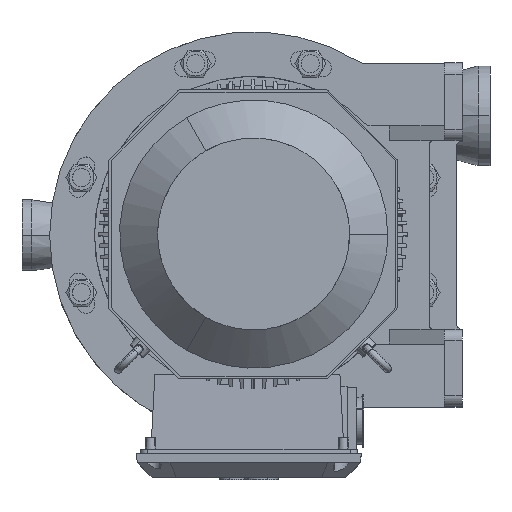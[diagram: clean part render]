
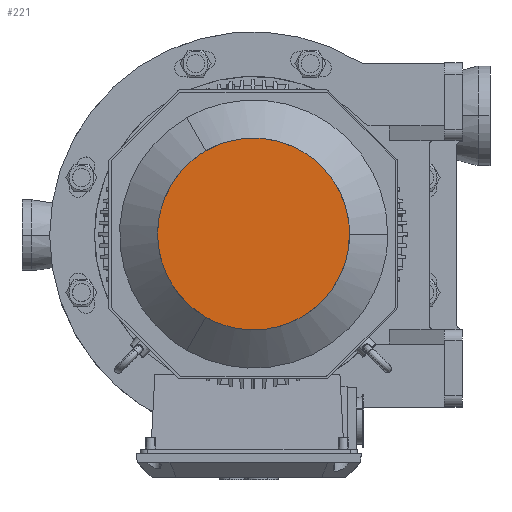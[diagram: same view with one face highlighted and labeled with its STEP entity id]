
A CAD part, top view. The second image highlights one B-rep face of the part: STEP entity #221.
In plain terms, the highlighted planar face has unit normal (0, 0, 1).
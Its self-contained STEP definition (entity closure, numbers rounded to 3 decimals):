
#136=CARTESIAN_POINT('',(-140.235,-139.591,927.108));
#137=DIRECTION('',(0.0,0.0,1.0));
#138=DIRECTION('',(-1.0,0.0,0.0));
#139=AXIS2_PLACEMENT_3D('',#136,#137,#138);
#140=PLANE('',#139);
#141=CARTESIAN_POINT('',(-63.305,111.039,927.108));
#142=VERTEX_POINT('',#141);
#143=CARTESIAN_POINT('',(129.02,0.,927.108));
#144=VERTEX_POINT('',#143);
#145=CARTESIAN_POINT('',(-63.305,111.039,927.108));
#146=CARTESIAN_POINT('',(-56.512,114.961,927.108));
#147=CARTESIAN_POINT('',(-49.178,118.502,927.108));
#148=CARTESIAN_POINT('',(-41.328,121.551,927.108));
#149=CARTESIAN_POINT('',(-24.002,126.637,927.108));
#150=CARTESIAN_POINT('',(-5.114,128.658,927.108));
#151=CARTESIAN_POINT('',(5.008,128.758,927.108));
#152=CARTESIAN_POINT('',(29.866,126.481,927.108));
#153=CARTESIAN_POINT('',(54.252,118.024,927.108));
#154=CARTESIAN_POINT('',(67.84,110.881,927.108));
#155=CARTESIAN_POINT('',(89.031,95.27,927.108));
#156=CARTESIAN_POINT('',(105.288,75.466,927.108));
#157=CARTESIAN_POINT('',(111.129,66.574,927.108));
#158=CARTESIAN_POINT('',(120.354,48.823,927.108));
#159=CARTESIAN_POINT('',(125.817,30.562,927.108));
#160=CARTESIAN_POINT('',(127.594,21.838,927.108));
#161=CARTESIAN_POINT('',(128.721,12.246,927.108));
#162=CARTESIAN_POINT('',(128.991,2.989,927.108));
#163=CARTESIAN_POINT('',(129.01,1.988,927.108));
#164=CARTESIAN_POINT('',(129.02,0.992,927.108));
#165=CARTESIAN_POINT('',(129.02,0.,927.108));
#166=B_SPLINE_CURVE_WITH_KNOTS('',5,(#145,#146,#147,#148,#149,#150,#151,#152,#153,#154,#155,#156,#157,#158,#159,#160,#161,#162,#163,#164,#165),.UNSPECIFIED.,.F.,.U.,(6,3,3,3,3,3,6),(0.0,87.702,182.826,318.608,417.282,508.361,519.452),.UNSPECIFIED.);
#167=EDGE_CURVE('',#142,#144,#166,.T.);
#168=ORIENTED_EDGE('',*,*,#167,.F.);
#169=CARTESIAN_POINT('',(-63.305,-111.039,927.108));
#170=VERTEX_POINT('',#169);
#171=CARTESIAN_POINT('',(-63.305,-111.039,927.108));
#172=CARTESIAN_POINT('',(-70.098,-107.116,927.108));
#173=CARTESIAN_POINT('',(-76.832,-102.536,927.108));
#174=CARTESIAN_POINT('',(-83.398,-97.262,927.108));
#175=CARTESIAN_POINT('',(-96.465,-84.801,927.108));
#176=CARTESIAN_POINT('',(-107.659,-69.454,927.108));
#177=CARTESIAN_POINT('',(-112.806,-60.738,927.108));
#178=CARTESIAN_POINT('',(-123.264,-38.072,927.108));
#179=CARTESIAN_POINT('',(-128.133,-12.724,927.108));
#180=CARTESIAN_POINT('',(-128.741,2.615,927.108));
#181=CARTESIAN_POINT('',(-125.817,28.772,927.108));
#182=CARTESIAN_POINT('',(-116.794,52.753,927.108));
#183=CARTESIAN_POINT('',(-112.014,62.258,927.108));
#184=CARTESIAN_POINT('',(-101.254,79.123,927.108));
#185=CARTESIAN_POINT('',(-88.171,92.984,927.108));
#186=CARTESIAN_POINT('',(-81.504,98.885,927.108));
#187=CARTESIAN_POINT('',(-73.761,104.657,927.108));
#188=CARTESIAN_POINT('',(-65.879,109.519,927.108));
#189=CARTESIAN_POINT('',(-65.022,110.036,927.108));
#190=CARTESIAN_POINT('',(-64.164,110.543,927.108));
#191=CARTESIAN_POINT('',(-63.305,111.039,927.108));
#192=B_SPLINE_CURVE_WITH_KNOTS('',5,(#171,#172,#173,#174,#175,#176,#177,#178,#179,#180,#181,#182,#183,#184,#185,#186,#187,#188,#189,#190,#191),.UNSPECIFIED.,.F.,.U.,(6,3,3,3,3,3,6),(0.0,87.702,182.826,318.608,417.282,508.361,519.452),.UNSPECIFIED.);
#193=EDGE_CURVE('',#170,#142,#192,.T.);
#194=ORIENTED_EDGE('',*,*,#193,.F.);
#195=CARTESIAN_POINT('',(129.02,0.,927.108));
#196=CARTESIAN_POINT('',(129.02,-7.844,927.108));
#197=CARTESIAN_POINT('',(128.42,-15.966,927.108));
#198=CARTESIAN_POINT('',(127.135,-24.289,927.108));
#199=CARTESIAN_POINT('',(122.877,-41.836,927.108));
#200=CARTESIAN_POINT('',(115.183,-59.204,927.108));
#201=CARTESIAN_POINT('',(110.208,-68.02,927.108));
#202=CARTESIAN_POINT('',(95.808,-88.41,927.108));
#203=CARTESIAN_POINT('',(76.29,-105.3,927.108));
#204=CARTESIAN_POINT('',(63.31,-113.496,927.108));
#205=CARTESIAN_POINT('',(39.196,-124.042,927.108));
#206=CARTESIAN_POINT('',(13.916,-128.219,927.108));
#207=CARTESIAN_POINT('',(3.295,-128.832,927.108));
#208=CARTESIAN_POINT('',(-16.691,-127.945,927.108));
#209=CARTESIAN_POINT('',(-35.236,-123.546,927.108));
#210=CARTESIAN_POINT('',(-43.68,-120.723,927.108));
#211=CARTESIAN_POINT('',(-52.55,-116.903,927.108));
#212=CARTESIAN_POINT('',(-60.702,-112.508,927.108));
#213=CARTESIAN_POINT('',(-61.578,-112.024,927.108));
#214=CARTESIAN_POINT('',(-62.446,-111.535,927.108));
#215=CARTESIAN_POINT('',(-63.305,-111.039,927.108));
#216=B_SPLINE_CURVE_WITH_KNOTS('',5,(#195,#196,#197,#198,#199,#200,#201,#202,#203,#204,#205,#206,#207,#208,#209,#210,#211,#212,#213,#214,#215),.UNSPECIFIED.,.F.,.U.,(6,3,3,3,3,3,6),(0.0,87.702,182.826,318.608,417.282,508.361,519.452),.UNSPECIFIED.);
#217=EDGE_CURVE('',#144,#170,#216,.T.);
#218=ORIENTED_EDGE('',*,*,#217,.F.);
#219=EDGE_LOOP('',(#168,#194,#218));
#220=FACE_OUTER_BOUND('',#219,.T.);
#221=ADVANCED_FACE('',(#220),#140,.T.);
